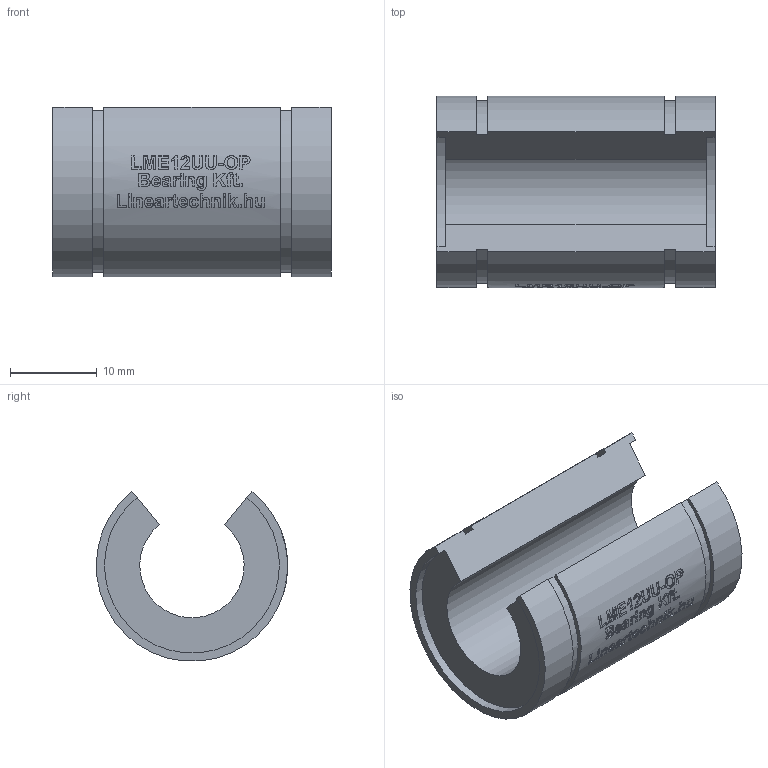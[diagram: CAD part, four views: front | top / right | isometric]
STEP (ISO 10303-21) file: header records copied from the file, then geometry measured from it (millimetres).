
FILE_DESCRIPTION(/* description */ (''),/* implementation_level */ '2;1');
FILE_NAME(/* name */ 'LME12UU-OP',/* time_stamp */ '2019-07-02T16:22:45+02:00',/* author */ ('VĂ©gh MĂˇtĂ©'),/* organization */ ('Bearing Kft'),/* preprocessor_version */ 'ST-DEVELOPER v16.7',/* originating_system */ 'DEX',/* authorisation */ $);
FILE_SCHEMA (('AUTOMOTIVE_DESIGN {1 0 10303 214 3 1 1}'));
Length unit declared in the file: millimetre
Products named in the file (1): LME12UU-OP
Bounding box: 32 x 21.99 x 19.53 mm (x, y, z)
Volume: 6311.9 mm3; surface area: 3563.1 mm2
Topology: 1 solids, 1 shells, 338 faces, 859 edges, 573 vertices
Faces by surface type: plane 185, bspline 95, cylinder 58
Entity records: 16072 total; most frequent: CARTESIAN_POINT 8348, ORIENTED_EDGE 1712, DIRECTION 1327, EDGE_CURVE 856, VERTEX_POINT 573, LINE 489, VECTOR 489, AXIS2_PLACEMENT_3D 419
